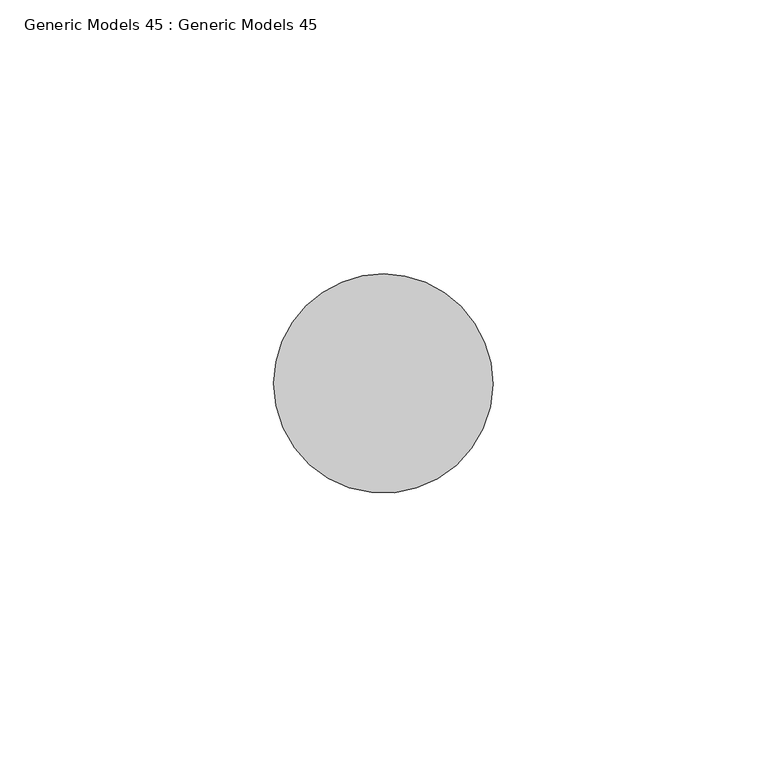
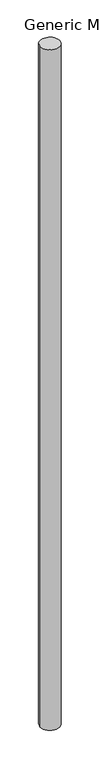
"""IFC4 building model written with IfcOpenShell, lengths in millimetres: proxy geometry, Generic Models 45 : Generic Models 45."""

from ifc_helpers import new_model, si_unit, point, frame, frame_2d, origin, place, context, project, spatial, circle_curve, trimmed, segment, composite_curve, outline, extrude, source, transform, mapped, element, save


def generic_models_45_generic_models_45_e7b4b76c(model_context):
    return source(origin(), model_context, "Body", "SweptSolid", [
        extrude(outline(composite_curve([segment(trimmed(circle_curve(frame_2d((90578.4727847, 20718.0441907)), 20.0), [point((90558.4729706, 20718.1304189))], [point((90598.4725989, 20717.9579624))], False, "CARTESIAN"), True, "CONTINUOUS"), segment(trimmed(circle_curve(frame_2d((90578.4727847, 20718.0441907)), 20.0), [point((90598.4725989, 20717.9579624))], [point((90558.4729706, 20718.1304189))], False, "CARTESIAN"), True, "CONTINUOUS")], self_intersect=False)), frame((0.0, 0.0, 100.0), z_axis=(0.0, 0.0, 1.0), x_axis=(1.0, 0.0, 0.0)), (0.0, 0.0, 1.0), 1500.0),
    ])


if __name__ == "__main__":
    model = new_model("IFC4")
    model_context = context("Model", 3, world=origin())
    ifc_project = project(units=[si_unit("LENGTHUNIT", "METRE", prefix="MILLI")], contexts=[model_context])
    site = spatial("IfcSite", under=ifc_project)
    building = spatial("IfcBuilding", under=site)
    placement = place(None, origin())
    generic_models_45_generic_models_45_shape = generic_models_45_generic_models_45_e7b4b76c(model_context)
    element("IfcBuildingElementProxy", 1, Name="Generic Models 45 : Generic Models 45", ObjectType="Generic Models 45 : Generic Models 45", at=placement, inside=building, context=model_context, shape_type="MappedRepresentation", body=[
        mapped(generic_models_45_generic_models_45_shape, transform((0.0, 0.0, 0.0), x_axis=(1.0, 0.0, 0.0), y_axis=(0.0, 1.0, 0.0), z_axis=(0.0, 0.0, 1.0))),
    ])
    save(model, "model.ifc")
